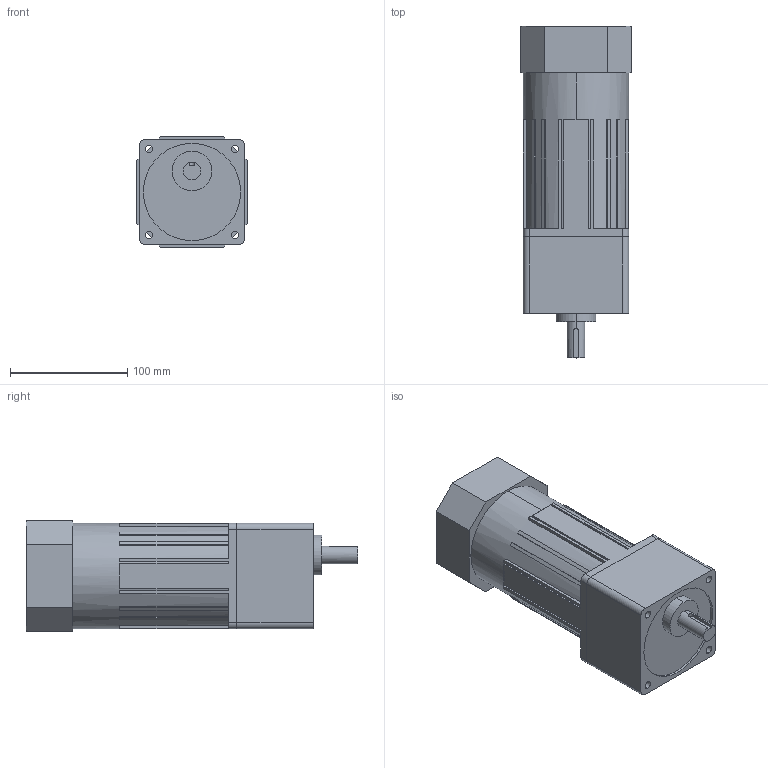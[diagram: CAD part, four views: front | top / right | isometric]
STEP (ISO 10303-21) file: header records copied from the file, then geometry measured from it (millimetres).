
FILE_DESCRIPTION (( 'STEP AP203' ), '1' );
FILE_NAME ('L9VK003B + L9R120PBHE.STEP', '2018-10-03T05:54:32', ( '' ), ( '' ), 'SwSTEP 2.0', 'SolidWorks 2017', '' );
FILE_SCHEMA (( 'CONFIG_CONTROL_DESIGN' ));
Length unit declared in the file: millimetre
Products named in the file (1): L9VK003B + L9R120PBHE
Bounding box: 94 x 283.5 x 94 mm (x, y, z)
Volume: 1756092.6 mm3; surface area: 126049.1 mm2
Topology: 2 solids, 2 shells, 144 faces, 402 edges, 266 vertices
Faces by surface type: plane 111, cylinder 33
Entity records: 4760 total; most frequent: CARTESIAN_POINT 845, ORIENTED_EDGE 804, DIRECTION 797, EDGE_CURVE 402, LINE 293, VECTOR 293, VERTEX_POINT 266, AXIS2_PLACEMENT_3D 252
